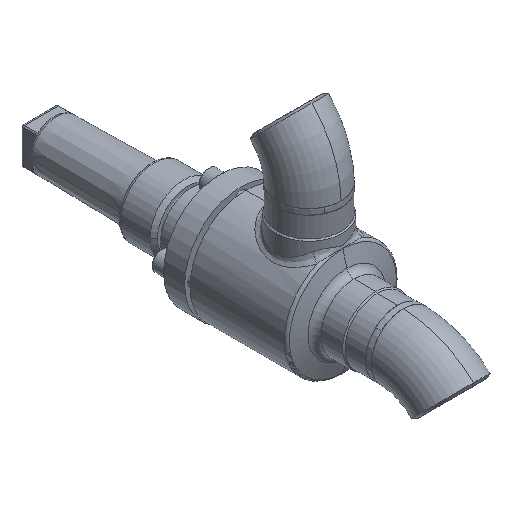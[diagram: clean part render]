
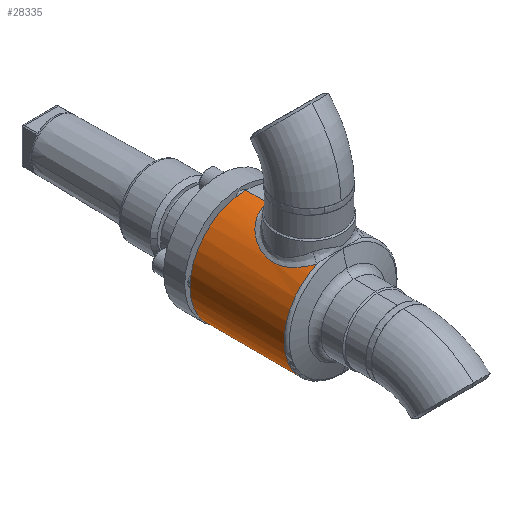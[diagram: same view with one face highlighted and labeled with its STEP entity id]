
A CAD part, isometric view. The second image highlights one B-rep face of the part: STEP entity #28335.
In plain terms, the highlighted cylindrical face has radius 37 mm (diameter 74 mm), a partial arc.
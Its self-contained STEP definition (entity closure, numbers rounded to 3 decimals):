
#19209 = VERTEX_POINT ( 'NONE', #29649 ) ;
#19621 = EDGE_CURVE ( 'NONE', #26524, #19209, #29933, .T. ) ;
#3301 = FACE_OUTER_BOUND ( 'NONE', #28053, .T. ) ;
#3302 = CYLINDRICAL_SURFACE ( 'NONE', #3303, 37. ) ;
#3303 = AXIS2_PLACEMENT_3D ( 'NONE', #3304, #3305, #3306 ) ;
#3304 = CARTESIAN_POINT ( 'NONE',  ( 0., -68., 0. ) ) ;
#3305 = DIRECTION ( 'NONE',  ( 0., 1., 0. ) ) ;
#3306 = DIRECTION ( 'NONE',  ( 0., 0., 1. ) ) ;
#21688 = VERTEX_POINT ( 'NONE', #11356 ) ;
#22506 = CIRCLE ( 'NONE', #22507, 37. ) ;
#22507 = AXIS2_PLACEMENT_3D ( 'NONE', #22508, #22509, #22510 ) ;
#22508 = CARTESIAN_POINT ( 'NONE',  ( 0., 0., 0. ) ) ;
#22509 = DIRECTION ( 'NONE',  ( 0., 1., 0. ) ) ;
#22510 = DIRECTION ( 'NONE',  ( 0., 0., 1. ) ) ;
#23146 = EDGE_CURVE ( 'NONE', #19209, #12553, #22506, .T. ) ;
#23821 = ORIENTED_EDGE ( 'NONE', *, *, #23146, .F. ) ;
#24783 = ORIENTED_EDGE ( 'NONE', *, *, #26863, .T. ) ;
#25743 = EDGE_CURVE ( 'NONE', #27307, #21688, #26867, .T. ) ;
#26419 = ORIENTED_EDGE ( 'NONE', *, *, #25743, .T. ) ;
#26524 = VERTEX_POINT ( 'NONE', #28033 ) ;
#26863 = EDGE_CURVE ( 'NONE', #21688, #12553, #28156, .T. ) ;
#26867 = B_SPLINE_CURVE_WITH_KNOTS ( 'NONE', 3,
 ( #26868, #26869, #26870, #26871, #26872, #26873, #26874, #26875, #26876, #26877, #26878, #26879, #26880, #26899, #26900, #26901, #26902, #26903, #26904, #26905, #26906, #26907, #26908, #26909, #26910, #26911, #26912, #26913, #26914, #26933, #26934, #26935, #26936, #26937, #26938, #26939, #26940, #26941, #26942, #26943, #26944, #26945, #26946, #26947, #26948, #26967, #26968, #26969 ),
 .UNSPECIFIED., .F., .F.,
 ( 4, 2, 2, 2, 2, 2, 2, 2, 2, 2, 2, 2, 2, 2, 2, 2, 2, 2, 2, 2, 2, 2, 2, 4 ),
 ( 0., 0.004, 0.008, 0.01, 0.012, 0.016, 0.018, 0.02, 0.024, 0.026, 0.028, 0.03, 0.032, 0.036, 0.04, 0.042, 0.044, 0.048, 0.05, 0.052, 0.056, 0.058, 0.06, 0.064 ),
 .UNSPECIFIED. ) ;
#26868 = CARTESIAN_POINT ( 'NONE',  ( -15.535, -62.446, 33.581 ) ) ;
#26869 = CARTESIAN_POINT ( 'NONE',  ( -16.452, -61.548, 33.157 ) ) ;
#26870 = CARTESIAN_POINT ( 'NONE',  ( -17.286, -60.594, 32.725 ) ) ;
#26871 = CARTESIAN_POINT ( 'NONE',  ( -18.811, -58.577, 31.873 ) ) ;
#26872 = CARTESIAN_POINT ( 'NONE',  ( -19.502, -57.514, 31.452 ) ) ;
#26873 = CARTESIAN_POINT ( 'NONE',  ( -20.434, -55.835, 30.848 ) ) ;
#26874 = CARTESIAN_POINT ( 'NONE',  ( -20.728, -55.259, 30.65 ) ) ;
#26875 = CARTESIAN_POINT ( 'NONE',  ( -21.277, -54.088, 30.272 ) ) ;
#26876 = CARTESIAN_POINT ( 'NONE',  ( -21.531, -53.494, 30.092 ) ) ;
#26877 = CARTESIAN_POINT ( 'NONE',  ( -22.233, -51.685, 29.581 ) ) ;
#26878 = CARTESIAN_POINT ( 'NONE',  ( -22.624, -50.442, 29.28 ) ) ;
#26879 = CARTESIAN_POINT ( 'NONE',  ( -23.09, -48.518, 28.912 ) ) ;
#26880 = CARTESIAN_POINT ( 'NONE',  ( -23.225, -47.864, 28.803 ) ) ;
#26899 = CARTESIAN_POINT ( 'NONE',  ( -23.453, -46.548, 28.618 ) ) ;
#26900 = CARTESIAN_POINT ( 'NONE',  ( -23.545, -45.887, 28.542 ) ) ;
#26901 = CARTESIAN_POINT ( 'NONE',  ( -23.756, -43.897, 28.367 ) ) ;
#26902 = CARTESIAN_POINT ( 'NONE',  ( -23.81, -42.56, 28.321 ) ) ;
#26903 = CARTESIAN_POINT ( 'NONE',  ( -23.758, -40.538, 28.365 ) ) ;
#26904 = CARTESIAN_POINT ( 'NONE',  ( -23.718, -39.862, 28.398 ) ) ;
#26905 = CARTESIAN_POINT ( 'NONE',  ( -23.596, -38.528, 28.5 ) ) ;
#26906 = CARTESIAN_POINT ( 'NONE',  ( -23.513, -37.867, 28.569 ) ) ;
#26907 = CARTESIAN_POINT ( 'NONE',  ( -23.304, -36.555, 28.739 ) ) ;
#26908 = CARTESIAN_POINT ( 'NONE',  ( -23.179, -35.905, 28.84 ) ) ;
#26909 = CARTESIAN_POINT ( 'NONE',  ( -22.886, -34.615, 29.073 ) ) ;
#26910 = CARTESIAN_POINT ( 'NONE',  ( -22.718, -33.974, 29.205 ) ) ;
#26911 = CARTESIAN_POINT ( 'NONE',  ( -22.153, -32.08, 29.639 ) ) ;
#26912 = CARTESIAN_POINT ( 'NONE',  ( -21.7, -30.866, 29.975 ) ) ;
#26913 = CARTESIAN_POINT ( 'NONE',  ( -20.645, -28.526, 30.712 ) ) ;
#26914 = CARTESIAN_POINT ( 'NONE',  ( -20.043, -27.4, 31.112 ) ) ;
#26933 = CARTESIAN_POINT ( 'NONE',  ( -19.02, -25.773, 31.74 ) ) ;
#26934 = CARTESIAN_POINT ( 'NONE',  ( -18.66, -25.243, 31.953 ) ) ;
#26935 = CARTESIAN_POINT ( 'NONE',  ( -17.908, -24.217, 32.381 ) ) ;
#26936 = CARTESIAN_POINT ( 'NONE',  ( -17.515, -23.72, 32.595 ) ) ;
#26937 = CARTESIAN_POINT ( 'NONE',  ( -16.284, -22.274, 33.237 ) ) ;
#26938 = CARTESIAN_POINT ( 'NONE',  ( -15.395, -21.372, 33.662 ) ) ;
#26939 = CARTESIAN_POINT ( 'NONE',  ( -13.943, -20.115, 34.276 ) ) ;
#26940 = CARTESIAN_POINT ( 'NONE',  ( -13.437, -19.71, 34.478 ) ) ;
#26941 = CARTESIAN_POINT ( 'NONE',  ( -12.398, -18.947, 34.865 ) ) ;
#26942 = CARTESIAN_POINT ( 'NONE',  ( -11.864, -18.588, 35.051 ) ) ;
#26943 = CARTESIAN_POINT ( 'NONE',  ( -10.215, -17.575, 35.581 ) ) ;
#26944 = CARTESIAN_POINT ( 'NONE',  ( -9.054, -16.989, 35.897 ) ) ;
#26945 = CARTESIAN_POINT ( 'NONE',  ( -7.207, -16.258, 36.297 ) ) ;
#26946 = CARTESIAN_POINT ( 'NONE',  ( -6.575, -16.041, 36.417 ) ) ;
#26947 = CARTESIAN_POINT ( 'NONE',  ( -5.29, -15.666, 36.626 ) ) ;
#26948 = CARTESIAN_POINT ( 'NONE',  ( -4.64, -15.508, 36.714 ) ) ;
#26967 = CARTESIAN_POINT ( 'NONE',  ( -2.677, -15.129, 36.926 ) ) ;
#26968 = CARTESIAN_POINT ( 'NONE',  ( -1.349, -15., 37. ) ) ;
#26969 = CARTESIAN_POINT ( 'NONE',  ( 0., -15., 37. ) ) ;
#27152 = CARTESIAN_POINT ( 'NONE',  ( 0., 0., 37. ) ) ;
#27307 = VERTEX_POINT ( 'NONE', #28389 ) ;
#11356 = CARTESIAN_POINT ( 'NONE',  ( 0., -15., 37. ) ) ;
#28033 = CARTESIAN_POINT ( 'NONE',  ( 0., -62.446, -37. ) ) ;
#28053 = EDGE_LOOP ( 'NONE', ( #15491, #14616, #26419, #24783, #23821 ) ) ;
#28156 = LINE ( 'NONE', #28157, #28158 ) ;
#28157 = CARTESIAN_POINT ( 'NONE',  ( 0., -68., 37. ) ) ;
#28158 = VECTOR ( 'NONE', #28159, 1000. ) ;
#28159 = DIRECTION ( 'NONE',  ( 0., 1., 0. ) ) ;
#28335 = ADVANCED_FACE ( 'NONE', ( #3301 ), #3302, .T. ) ;
#28389 = CARTESIAN_POINT ( 'NONE',  ( -15.535, -62.446, 33.581 ) ) ;
#12500 = CIRCLE ( 'NONE', #12501, 37. ) ;
#12501 = AXIS2_PLACEMENT_3D ( 'NONE', #12502, #12503, #12521 ) ;
#12502 = CARTESIAN_POINT ( 'NONE',  ( 0., -62.446, 0. ) ) ;
#12503 = DIRECTION ( 'NONE',  ( 0., 1., 0. ) ) ;
#12521 = DIRECTION ( 'NONE',  ( 0., 0., -1. ) ) ;
#12553 = VERTEX_POINT ( 'NONE', #27152 ) ;
#29649 = CARTESIAN_POINT ( 'NONE',  ( 0., 0., -37. ) ) ;
#29933 = LINE ( 'NONE', #29951, #29952 ) ;
#29951 = CARTESIAN_POINT ( 'NONE',  ( 0., -68., -37. ) ) ;
#29952 = VECTOR ( 'NONE', #29953, 1000. ) ;
#29953 = DIRECTION ( 'NONE',  ( 0., 1., 0. ) ) ;
#13936 = EDGE_CURVE ( 'NONE', #26524, #27307, #12500, .T. ) ;
#14616 = ORIENTED_EDGE ( 'NONE', *, *, #13936, .T. ) ;
#15491 = ORIENTED_EDGE ( 'NONE', *, *, #19621, .F. ) ;
